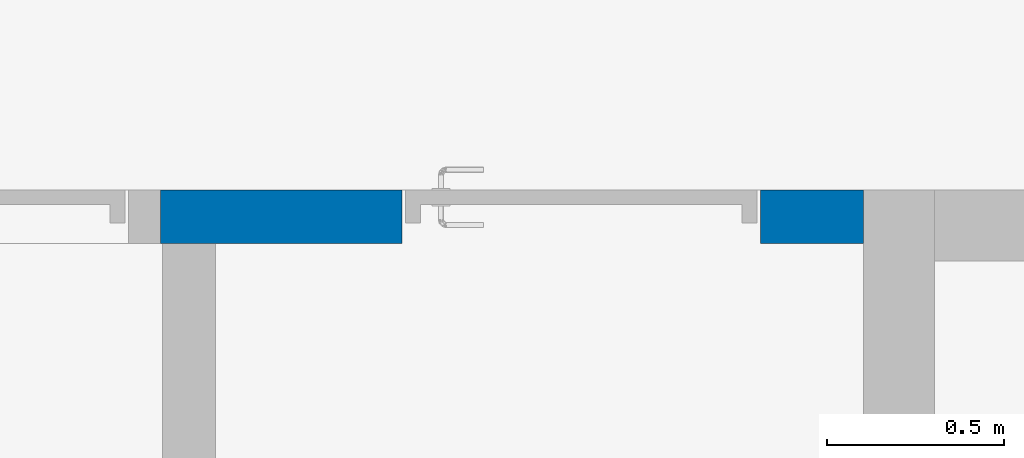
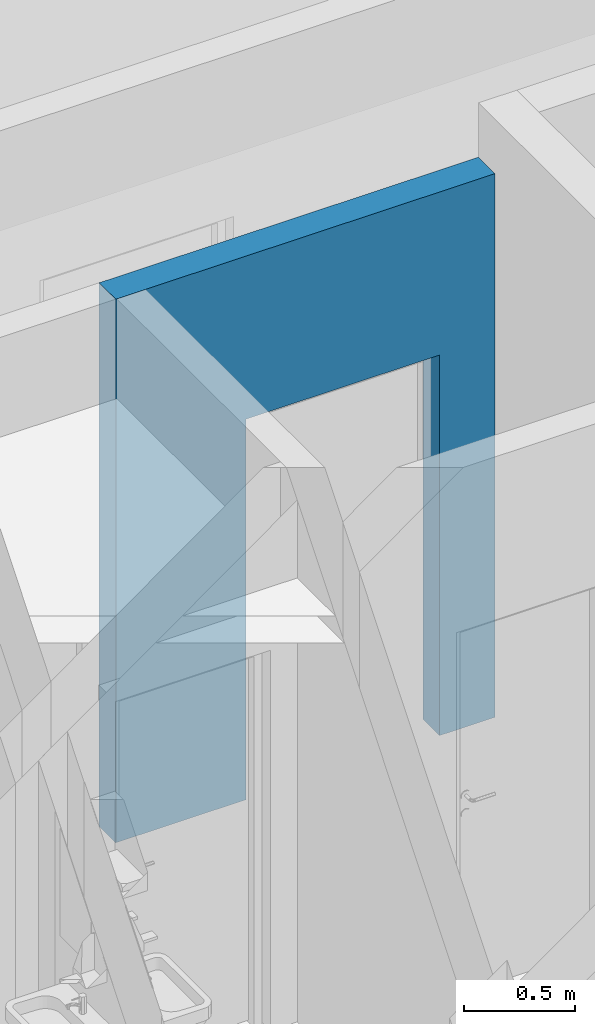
# One storey, part 29 of 58: 1 wall, 1 opening.
"""IFC2X3 building model written with IfcOpenShell, lengths in millimetres."""

from ifc_helpers import new_model, entity, si_unit, converted_unit, derived_unit, direction, frame, frame_2d, origin, place, context, subcontext, project, spatial, rectangle, extrude, material, layer, layer_set, layer_usage, type_object, element, save


model = new_model("IFC2X3")

# Units and contexts
model_context = context("Model", 3, precision=0.01, world=origin(), true_north=direction((0.7716245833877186, 0.6360782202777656)))
body_context = subcontext(model_context, "Body", "Model", "MODEL_VIEW")
ifc_project = project(units=[si_unit("LENGTHUNIT", "METRE", prefix="MILLI"), si_unit("AREAUNIT", "SQUARE_METRE"), converted_unit("PLANEANGLEUNIT", "DEGREE", entity("IfcPlaneAngleMeasure", 0.017453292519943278), si_unit("PLANEANGLEUNIT", "RADIAN"), dimensions=[0, 0, 0, 0, 0, 0, 0]), derived_unit("THERMALTRANSMITTANCEUNIT", [(si_unit("MASSUNIT", "GRAM", prefix="KILO"), 1), (si_unit("THERMODYNAMICTEMPERATUREUNIT", "KELVIN"), -1), (si_unit("TIMEUNIT", "SECOND"), -3)])], contexts=[model_context])

# Site, building, storey
site_placement = place(None, origin())
site = spatial("IfcSite", under=ifc_project, at=site_placement, Name="Default", CompositionType="ELEMENT")
building_placement = place(site_placement, origin())
building = spatial("IfcBuilding", under=site, at=building_placement, CompositionType="ELEMENT")
storey_placement = place(building_placement, frame((0.0, 0.0, 31140.0)))
storey = spatial("IfcBuildingStorey", under=building, at=storey_placement, Name="PLAN U1", CompositionType="ELEMENT", Elevation=31140.000000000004)

# Wall, opening
ifc_material = material(Name="Eksist. vegg")
ifc_layer = layer(ifc_material, 150.0)
ifc_layer_set = layer_set([ifc_layer], Name="Basic Wall:240 Eksist. Innervegg 150 mm")
ifc_layer_usage = layer_usage(ifc_layer_set, "AXIS2", "NEGATIVE", 75.0)
wall_type = type_object("IfcWallType", Name="Basic Wall:240 Eksist. Innervegg 150 mm", PredefinedType="STANDARD", material=ifc_layer_set)
wall_placement = place(storey_placement, frame((267817.924446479, 62679.501639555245, 0.0), z_axis=(0.0, 0.0, 1.0), x_axis=(-1.0, 0.0, 0.0)))
wall = element("IfcWallStandardCase", 1, at=wall_placement, inside=storey, type_object=wall_type, material=ifc_layer_usage, Name="Basic Wall:240 Eksist. Innervegg 150 mm", ObjectType="Basic Wall:240 Eksist. Innervegg 150 mm", context=body_context, shape_type="SweptSolid", body=[
    extrude(rectangle(XDim=1980.0000000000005, YDim=150.00000000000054, at=frame_2d((990.0000000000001, -2.1316282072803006e-12), x_axis=(1.0, 0.0))), origin(), (0.0, 0.0, 1.0), 2999.9999999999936),
])
opening_placement = place(wall_placement, frame((1300.0, 75.0, 0.0)))
element("IfcOpeningElement", 2, at=opening_placement, cuts=wall, Name="Enfløyet:2441 Innvendig 10x21M:1", ObjectType="Opening", context=body_context, shape_type="SweptSolid", body=[
    extrude(rectangle(XDim=2100.0, YDim=1009.9999999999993, at=frame_2d((1049.9999999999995, 504.99999999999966), x_axis=(1.0, 0.0))), frame((0.0, 0.0, 0.0), z_axis=(0.0, -1.0, 0.0), x_axis=(0.0, 0.0, 1.0)), (0.0, 0.0, 1.0), 150.0),
])

save(model, "model.ifc")
